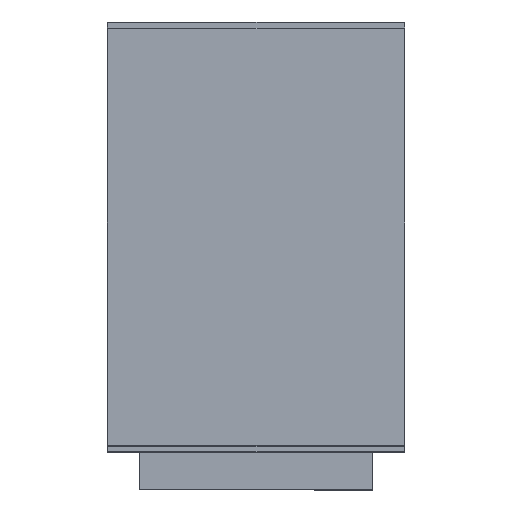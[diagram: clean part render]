
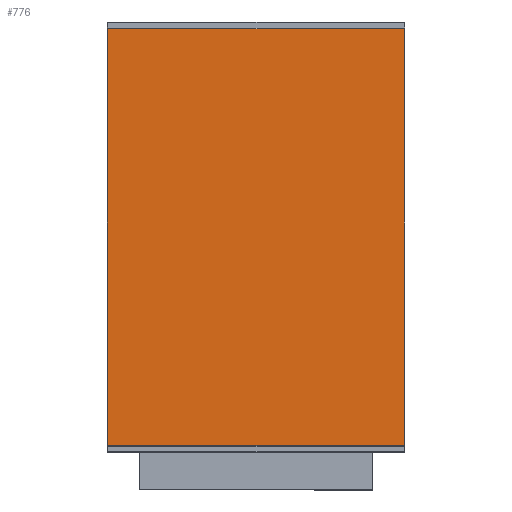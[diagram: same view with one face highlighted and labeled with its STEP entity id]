
A CAD part, left-side view. The second image highlights one B-rep face of the part: STEP entity #776.
In plain terms, the highlighted planar face has unit normal (-1, 0, 0).
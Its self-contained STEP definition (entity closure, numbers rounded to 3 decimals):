
#776=ADVANCED_FACE('',(#1184),#4964,.T.);
#1184=FACE_OUTER_BOUND('',#1592,.T.);
#1592=EDGE_LOOP('',(#3060,#3061,#3062,#3063));
#3060=ORIENTED_EDGE('',*,*,#3916,.T.);
#3061=ORIENTED_EDGE('',*,*,#3917,.T.);
#3062=ORIENTED_EDGE('',*,*,#3918,.T.);
#3063=ORIENTED_EDGE('',*,*,#3919,.T.);
#3916=EDGE_CURVE('',#4812,#4813,#4396,.T.);
#3917=EDGE_CURVE('',#4813,#4814,#4397,.T.);
#3918=EDGE_CURVE('',#4814,#4815,#4398,.T.);
#3919=EDGE_CURVE('',#4815,#4812,#4399,.T.);
#4396=B_SPLINE_CURVE_WITH_KNOTS('',1,(#40942,#40943),.UNSPECIFIED.,.F.,
 .F.,(2,2),(0.,659.),.UNSPECIFIED.);
#4397=B_SPLINE_CURVE_WITH_KNOTS('',1,(#40944,#40945),.UNSPECIFIED.,.F.,
 .F.,(2,2),(0.,469.),.UNSPECIFIED.);
#4398=B_SPLINE_CURVE_WITH_KNOTS('',1,(#40946,#40947),.UNSPECIFIED.,.F.,
 .F.,(2,2),(0.,659.),.UNSPECIFIED.);
#4399=B_SPLINE_CURVE_WITH_KNOTS('',1,(#40948,#40949),.UNSPECIFIED.,.F.,
 .F.,(2,2),(0.,469.),.UNSPECIFIED.);
#4812=VERTEX_POINT('',#40910);
#4813=VERTEX_POINT('',#40911);
#4814=VERTEX_POINT('',#40912);
#4815=VERTEX_POINT('',#40913);
#4964=PLANE('',#26333);
#26333=AXIS2_PLACEMENT_3D('',#40706,#28075,$);
#28075=DIRECTION('',(-1.,0.,0.));
#40706=CARTESIAN_POINT('',(7374.655,516.412,14.588));
#40910=CARTESIAN_POINT('',(7374.655,0.5,80.5));
#40911=CARTESIAN_POINT('',(7374.655,0.5,739.5));
#40912=CARTESIAN_POINT('',(7374.655,469.5,739.5));
#40913=CARTESIAN_POINT('',(7374.655,469.5,80.5));
#40942=CARTESIAN_POINT('',(7374.655,0.5,80.5));
#40943=CARTESIAN_POINT('',(7374.655,0.5,739.5));
#40944=CARTESIAN_POINT('',(7374.655,0.5,739.5));
#40945=CARTESIAN_POINT('',(7374.655,469.5,739.5));
#40946=CARTESIAN_POINT('',(7374.655,469.5,739.5));
#40947=CARTESIAN_POINT('',(7374.655,469.5,80.5));
#40948=CARTESIAN_POINT('',(7374.655,469.5,80.5));
#40949=CARTESIAN_POINT('',(7374.655,0.5,80.5));
